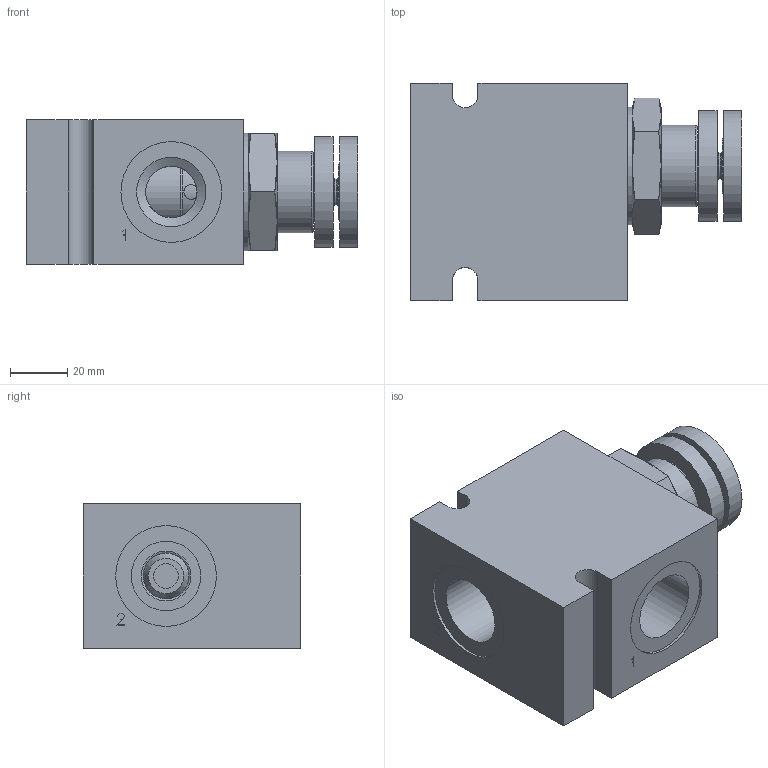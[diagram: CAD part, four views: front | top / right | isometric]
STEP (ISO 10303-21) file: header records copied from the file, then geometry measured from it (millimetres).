
FILE_DESCRIPTION( ( 'Unknown' ), '1' );
FILE_NAME( 'G:/Graphic Design/Graphic Design 2/Data Sheets/FLOW CONTROLS/2_STEP/Pressure Compensated Flow Regulator Valves/D-SJFCA0K-D2.stp', 'Unknown', ( 'Unknown' ), ( 'Unknown' ), 'PSStep 16.0.42', 'Unknown', ' ' );
FILE_SCHEMA( ( 'AUTOMOTIVE_DESIGN { 1 0 10303 214 1 1 1 1 }' ) );
Length unit declared in the file: millimetre
Products named in the file (11): SJFCA0K; SJFCA0K-3D Full2; SJFCA0K-3D Full3; SJFCA0K-3D Full4; SJFCA0K-3D Full5; SJFCA0K-3D Full6; SJFCA0K-3D Full1; Assem1; B-DSJD2
Assembly tree (10 placements, depth 3):
  Assem1
    B-DSJD2
    SJFCA0K
      SJFCA0K-3D Full2
      SJFCA0K-3D Full3
      SJFCA0K-3D Full4
      SJFCA0K-3D Full5
      SJFCA0K-3D Full6
      SJFCA0K-3D Full1
      SJFCA0K-3D Full1
      SJFCA0K-3D Full1
Bounding box: 116.09 x 76.2 x 50.8 mm (x, y, z)
Surface area: 57951.7 mm2 (no closed solid volume)
Topology: 0 solids, 230 shells, 230 faces, 921 edges, 825 vertices
Faces by surface type: plane 101, cone 75, cylinder 47, torus 7
Full cylindrical faces by diameter (mm): 0.2 x2, 3.962 x1, 5.156 x4, 8.128 x1, 8.636 x1, 9.525 x2, 12.954 x1, 17.482 x2, 18 x1, 18.669 x1, 19.05 x2, 23.698 x1, 24.181 x1, 24.232 x1, 24.3 x4, 25.4 x2, 28.448 x1, 28.524 x2, 28.55 x1, 28.651 x1, 30.328 x1, 31.806 x2, 35.33 x2, 38.862 x2, 41.275 x1, 48.514 x1
Entity records: 11962 total; most frequent: CARTESIAN_POINT 3644, DIRECTION 1288, VERTEX_POINT 776, ORIENTED_EDGE 772, EDGE_CURVE 772, AXIS2_PLACEMENT_3D 550, FACE_BOUND 359, EDGE_LOOP 355
